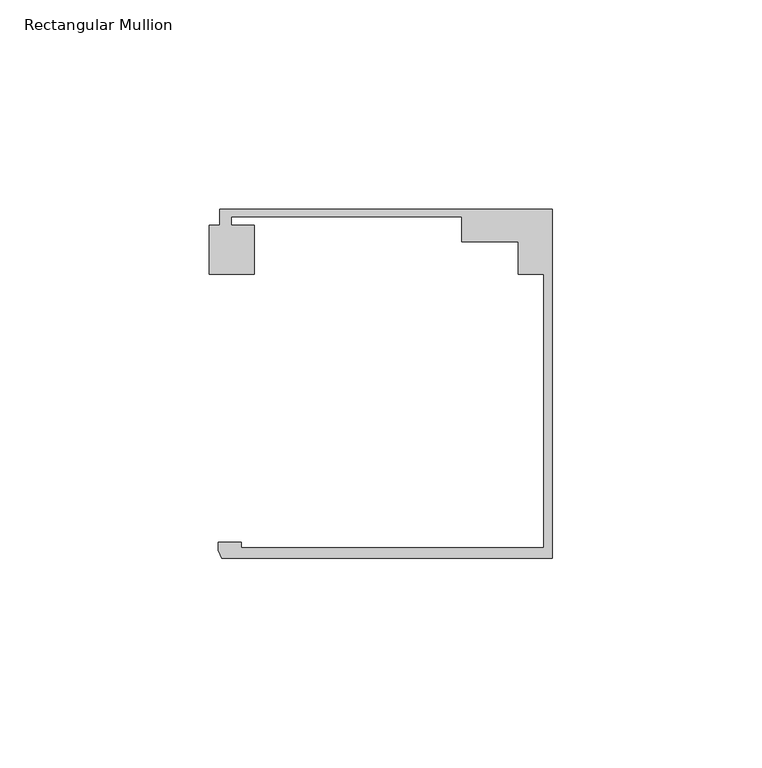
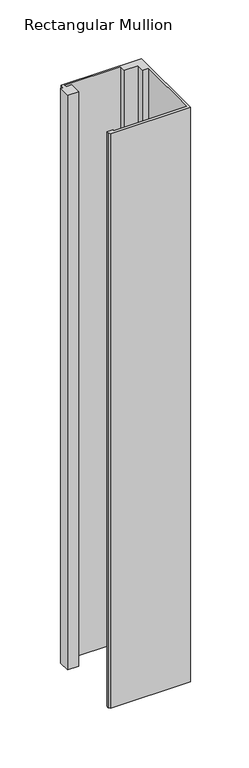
"""IFC4 building model written with IfcOpenShell, lengths in millimetres: member geometry, Rectangular Mullion : Danpal_Airpt_End-Mullion_B1."""

from ifc_helpers import new_model, si_unit, frame, origin, place, context, project, spatial, polyline, outline, extrude, source, transform, mapped, element, save


def rectangular_mullion_933b9407(model_context):
    return source(origin(), model_context, "Body", "SweptSolid", [
        extrude(outline(polyline([(-74.2474668, -74.9940824), (-2.0000001, -74.9940824), (-2.0000001, -9.7188964), (-8.1, -9.7188964), (-8.1, -1.8818054), (-21.5478166, -1.8818054), (-21.5478166, 4.0051512), (-76.6478166, 4.0051512), (-76.6478166, 2.0051513), (-71.1433532, 2.0051513), (-71.1433532, -9.6875514), (-81.8592324, -9.6875514), (-81.8592324, 2.0051513), (-79.3474874, 2.0051513), (-79.3474874, 5.8051514), (0.0, 5.8051514), (0.0, -77.4940825), (-78.8515009, -77.4940825), (-79.7784606, -75.5472671), (-79.7784606, -73.6940824), (-74.2474668, -73.6940824), (-74.2474668, -74.9940824)])), frame((0.0, 0.0, -598.0823536), z_axis=(0.0, 0.0, 1.0), x_axis=(1.0, 0.0, 0.0)), (0.0, 0.0, 1.0), 598.0823536),
    ])


if __name__ == "__main__":
    model = new_model("IFC4")
    model_context = context("Model", 3, world=origin())
    ifc_project = project(units=[si_unit("LENGTHUNIT", "METRE", prefix="MILLI")], contexts=[model_context])
    site = spatial("IfcSite", under=ifc_project)
    building = spatial("IfcBuilding", under=site)
    placement = place(None, origin())
    rectangular_mullion_shape = rectangular_mullion_933b9407(model_context)
    element("IfcMember", 1, ObjectType="Rectangular Mullion : Danpal_Airpt_End-Mullion_B1", at=placement, inside=building, context=model_context, shape_type="MappedRepresentation", body=[
        mapped(rectangular_mullion_shape, transform((0.0, 0.0, 0.0), x_axis=(1.0, 0.0, 0.0), y_axis=(0.0, 1.0, 0.0), z_axis=(0.0, 0.0, 1.0))),
    ])
    save(model, "model.ifc")
